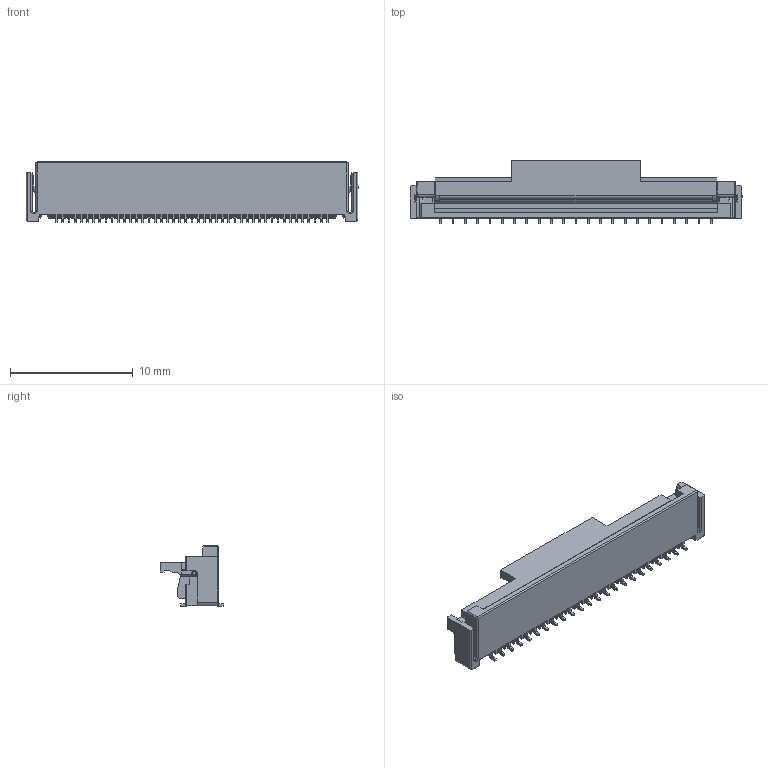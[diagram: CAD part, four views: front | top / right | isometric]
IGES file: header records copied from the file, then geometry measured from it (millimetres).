
Start section: SolidWorks IGES file using analytic representation for surfaces
Global section: file name: Q:\Kamikawa_Hisako\171006\6251\00_6251_0xx_010_846_+\00_6251_045_010_846+.IGS; native system: SolidWorks 2014; preprocessor: SolidWorks 2014; author: 151066016; date: 171017.142818; units: millimetre
Bounding box: 27 x 5.15 x 4.95 mm (x, y, z)
Surface area: 714.8 mm2 (no closed solid volume)
Topology: 0 solids, 0 shells, 1023 faces, 6860 edges, 6859 vertices
Faces by surface type: bspline 808, revolution 215
